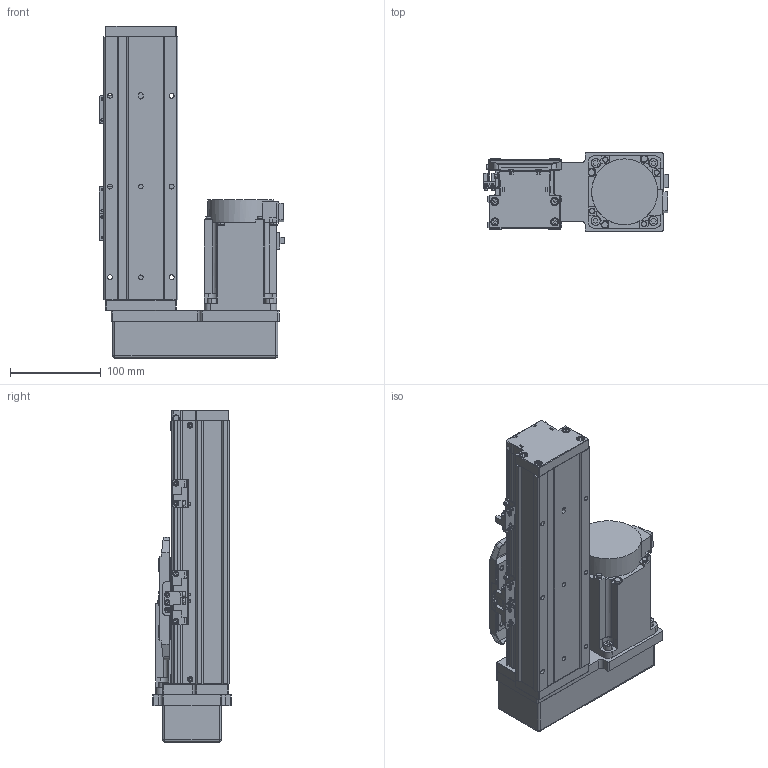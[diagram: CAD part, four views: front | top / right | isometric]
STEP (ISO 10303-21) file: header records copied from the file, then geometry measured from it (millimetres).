
FILE_DESCRIPTION (( 'STEP AP203' ), '1' );
FILE_NAME ('GTH8-100-BR-M75-C4.step', '2023-02-14T02:31:55', ( '微软用户' ), ( '微软中国' ), 'SwSTEP 2.0', 'SolidWorks 2020', '' );
FILE_SCHEMA (( 'CONFIG_CONTROL_DESIGN' ));
Length unit declared in the file: millimetre
Products named in the file (18): GTH80-003; GBT 70.1-M4×16; CTHA86-035; GTH80-004; GTH80-028; hg-kn73j_-s100; GTH80-006; GTH50-024; GTH8-100-BR-M75-C4; GTH80-013; GTH50-023; GBT 70.3-M3℅6; GBT96.1-2002 3×0.8; GTH80-022; BTH-M3X5X6; GTH80-001_100; GBT 70.1-M3℅6; CTHA86-015-3_CTHA86-015-4
Assembly tree (57 placements, depth 2):
  GTH8-100-BR-M75-C4
    GTH80-001_100
    GTH80-003
    GTH80-004
    GTH80-006
    GTH80-013
    GBT 70.3-M3℅6  x4
    GTH80-022
    GBT 70.1-M3℅6  x14
    GBT 70.1-M4×16  x8
    GTH80-028  x2
    GTH50-024  x3
    GTH50-023  x3
    GBT96.1-2002 3×0.8  x6
    BTH-M3X5X6  x8
    CTHA86-015-3_CTHA86-015-4
    CTHA86-035
    hg-kn73j_-s100
Bounding box: 204.7 x 87 x 366 mm (x, y, z)
Volume: 2804956.3 mm3; surface area: 337852.9 mm2
Topology: 59 solids, 59 shells, 2175 faces, 5034 edges, 3080 vertices
Faces by surface type: plane 1153, cylinder 607, cone 243, torus 158, sphere 12, bspline 2
Entity records: 38848 total; most frequent: CARTESIAN_POINT 6527, DIRECTION 6389, ORIENTED_EDGE 5878, EDGE_CURVE 2939, AXIS2_PLACEMENT_3D 2242, LINE 1905, VECTOR 1905, VERTEX_POINT 1855
